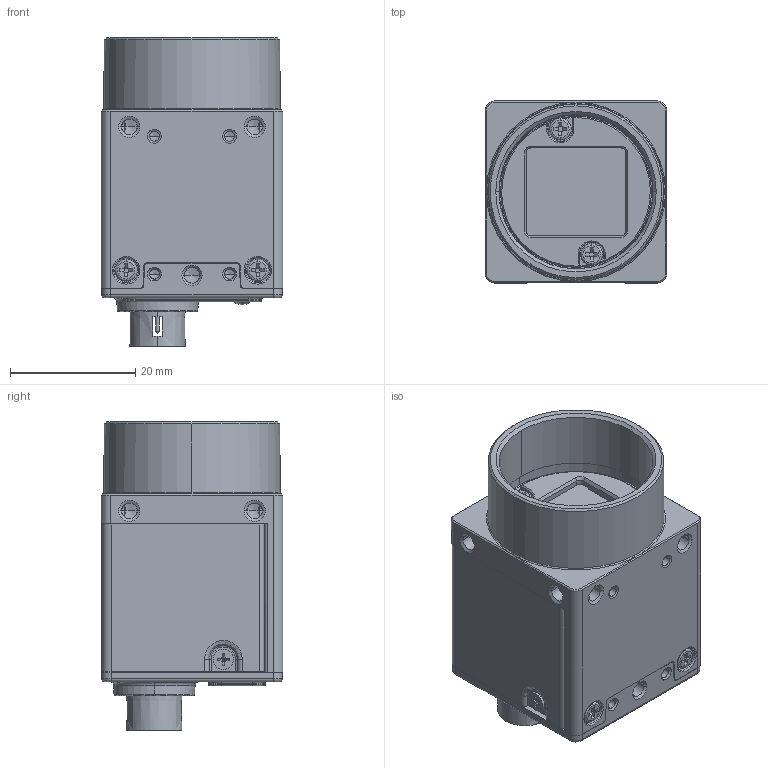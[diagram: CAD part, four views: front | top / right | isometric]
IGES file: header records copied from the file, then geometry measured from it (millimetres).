
Start section:  PTC IGES file: dh9-rdi000514-6001_18-9.igs
Global section: file name: dh9-rdi000514-6001_18-9.igs; native system: Creo Parametric by PTC Inc.; preprocessor: 2020184; author: 401332; organization: Unknown; date: 20250318.141647; units: millimetre
Bounding box: 29 x 29 x 49.2 mm (x, y, z)
Surface area: 14785.8 mm2 (no closed solid volume)
Topology: 0 solids, 0 shells, 2346 faces, 12466 edges, 12397 vertices
Faces by surface type: bspline 1168, revolution 1141, extrusion 37
